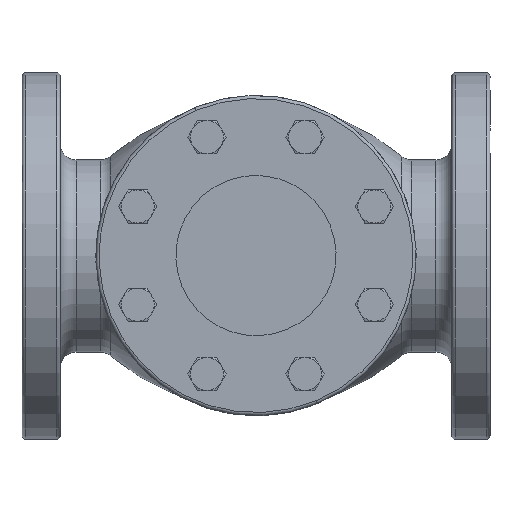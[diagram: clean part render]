
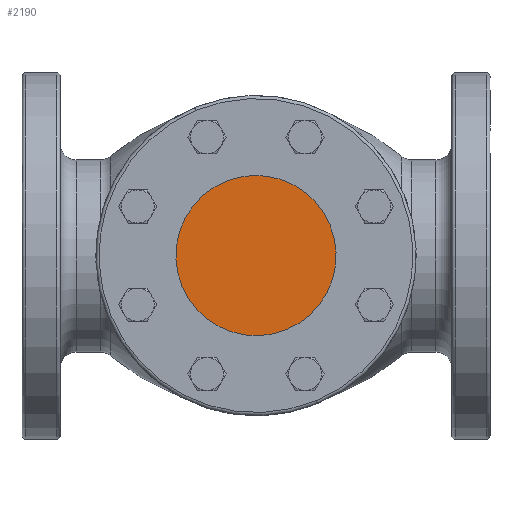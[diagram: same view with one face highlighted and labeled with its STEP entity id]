
A CAD part, top view. The second image highlights one B-rep face of the part: STEP entity #2190.
In plain terms, the highlighted planar face has unit normal (0, 0, 1).
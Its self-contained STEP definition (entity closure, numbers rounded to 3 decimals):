
#222 = VERTEX_POINT('',#223);
#223 = CARTESIAN_POINT('',(-31.74,-182.328,
    375.686));
#232 = CYLINDRICAL_SURFACE('',#233,50.);
#233 = AXIS2_PLACEMENT_3D('',#234,#235,#236);
#234 = CARTESIAN_POINT('',(-50.874,-136.134,
    375.686));
#235 = DIRECTION('',(0.,0.,1.));
#236 = DIRECTION('',(0.383,-0.924,0.)
  );
#244 = CYLINDRICAL_SURFACE('',#245,50.);
#245 = AXIS2_PLACEMENT_3D('',#246,#247,#248);
#246 = CARTESIAN_POINT('',(-50.874,-136.134,
    375.686));
#247 = DIRECTION('',(0.,0.,1.));
#248 = DIRECTION('',(0.383,-0.924,0.)
  );
#286 = VERTEX_POINT('',#287);
#287 = CARTESIAN_POINT('',(-70.008,-89.94,
    375.686));
#308 = EDGE_CURVE('',#286,#222,#309,.T.);
#309 = SURFACE_CURVE('',#310,(#315,#322),.PCURVE_S1.);
#310 = CIRCLE('',#311,50.);
#311 = AXIS2_PLACEMENT_3D('',#312,#313,#314);
#312 = CARTESIAN_POINT('',(-50.874,-136.134,
    375.686));
#313 = DIRECTION('',(0.,0.,1.));
#314 = DIRECTION('',(0.383,-0.924,0.)
  );
#315 = PCURVE('',#232,#316);
#316 = DEFINITIONAL_REPRESENTATION('',(#317),#321);
#317 = LINE('',#318,#319);
#318 = CARTESIAN_POINT('',(0.,0.));
#319 = VECTOR('',#320,1.);
#320 = DIRECTION('',(1.,0.));
#321 = ( GEOMETRIC_REPRESENTATION_CONTEXT(2) 
PARAMETRIC_REPRESENTATION_CONTEXT() REPRESENTATION_CONTEXT('2D SPACE',''
  ) );
#322 = PCURVE('',#323,#328);
#323 = PLANE('',#324);
#324 = AXIS2_PLACEMENT_3D('',#325,#326,#327);
#325 = CARTESIAN_POINT('',(-50.874,-136.134,
    375.686));
#326 = DIRECTION('',(0.,0.,1.));
#327 = DIRECTION('',(0.383,-0.924,0.)
  );
#328 = DEFINITIONAL_REPRESENTATION('',(#329),#333);
#329 = CIRCLE('',#330,50.);
#330 = AXIS2_PLACEMENT_2D('',#331,#332);
#331 = CARTESIAN_POINT('',(0.,0.));
#332 = DIRECTION('',(1.,0.));
#333 = ( GEOMETRIC_REPRESENTATION_CONTEXT(2) 
PARAMETRIC_REPRESENTATION_CONTEXT() REPRESENTATION_CONTEXT('2D SPACE',''
  ) );
#2167 = EDGE_CURVE('',#222,#286,#2168,.T.);
#2168 = SURFACE_CURVE('',#2169,(#2174,#2181),.PCURVE_S1.);
#2169 = CIRCLE('',#2170,50.);
#2170 = AXIS2_PLACEMENT_3D('',#2171,#2172,#2173);
#2171 = CARTESIAN_POINT('',(-50.874,-136.134,
    375.686));
#2172 = DIRECTION('',(0.,0.,1.));
#2173 = DIRECTION('',(0.383,-0.924,0.)
  );
#2174 = PCURVE('',#244,#2175);
#2175 = DEFINITIONAL_REPRESENTATION('',(#2176),#2180);
#2176 = LINE('',#2177,#2178);
#2177 = CARTESIAN_POINT('',(0.,0.));
#2178 = VECTOR('',#2179,1.);
#2179 = DIRECTION('',(1.,0.));
#2180 = ( GEOMETRIC_REPRESENTATION_CONTEXT(2) 
PARAMETRIC_REPRESENTATION_CONTEXT() REPRESENTATION_CONTEXT('2D SPACE',''
  ) );
#2181 = PCURVE('',#323,#2182);
#2182 = DEFINITIONAL_REPRESENTATION('',(#2183),#2187);
#2183 = CIRCLE('',#2184,50.);
#2184 = AXIS2_PLACEMENT_2D('',#2185,#2186);
#2185 = CARTESIAN_POINT('',(0.,0.));
#2186 = DIRECTION('',(1.,0.));
#2187 = ( GEOMETRIC_REPRESENTATION_CONTEXT(2) 
PARAMETRIC_REPRESENTATION_CONTEXT() REPRESENTATION_CONTEXT('2D SPACE',''
  ) );
#2190 = ADVANCED_FACE('',(#2191),#323,.T.);
#2191 = FACE_BOUND('',#2192,.T.);
#2192 = EDGE_LOOP('',(#2193,#2194));
#2193 = ORIENTED_EDGE('',*,*,#2167,.T.);
#2194 = ORIENTED_EDGE('',*,*,#308,.T.);
